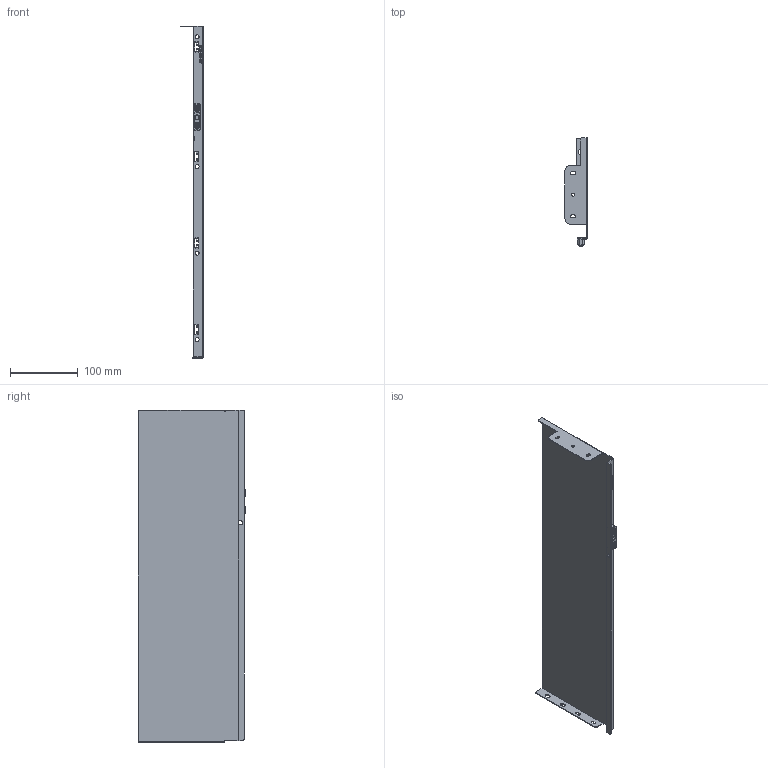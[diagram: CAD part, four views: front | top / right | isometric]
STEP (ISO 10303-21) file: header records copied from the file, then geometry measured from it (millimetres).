
FILE_DESCRIPTION (( 'STEP AP203' ), '1' );
FILE_NAME ('HL13500R.STEP', '2021-07-31T00:44:04', ( 'Users' ), ( 'Microsoft' ), 'SwSTEP 2.0', 'SolidWorks 2018', '' );
FILE_SCHEMA (( 'CONFIG_CONTROL_DESIGN' ));
Length unit declared in the file: millimetre
Products named in the file (1): HL13500R
Bounding box: 32.6 x 159.7 x 491.2 mm (x, y, z)
Volume: 108088.7 mm3; surface area: 179088.8 mm2
Topology: 1 solids, 1 shells, 448 faces, 1220 edges, 791 vertices
Faces by surface type: cylinder 169, plane 162, bspline 60, torus 55, cone 2
Entity records: 17736 total; most frequent: CARTESIAN_POINT 6311, ORIENTED_EDGE 2432, DIRECTION 2323, EDGE_CURVE 1216, AXIS2_PLACEMENT_3D 843, VERTEX_POINT 791, LINE 637, VECTOR 637
